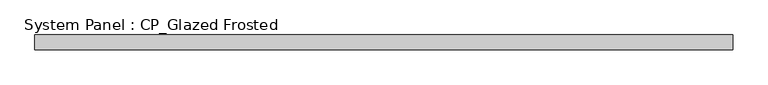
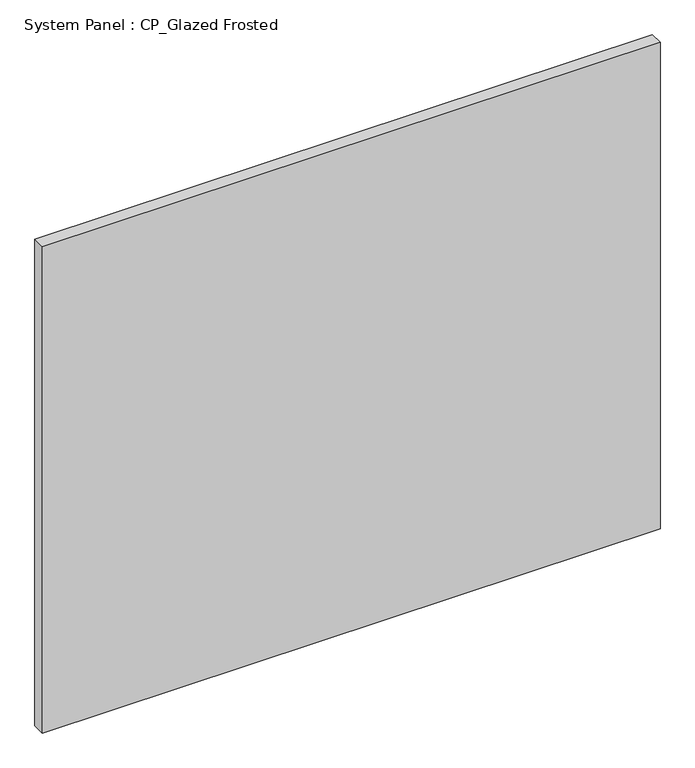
"""IFC4 building model written with IfcOpenShell, lengths in millimetres: plate geometry, System Panel : CP_Glazed Frosted."""

from ifc_helpers import new_model, si_unit, origin, origin_with_axes, place, context, project, spatial, polyline, outline, extrude, source, transform, mapped, element, save


def system_panel_cp_glazed_frosted_0f454312(model_context):
    return source(origin(), model_context, "Body", "SweptSolid", [
        extrude(outline(polyline([(596.503125, 19.05), (-596.503125, 19.05), (-596.503125, 44.45), (596.503125, 44.45), (596.503125, 19.05)])), origin_with_axes(), (0.0, 0.0, 1.0), 992.98125),
    ])


if __name__ == "__main__":
    model = new_model("IFC4")
    model_context = context("Model", 3, world=origin())
    ifc_project = project(units=[si_unit("LENGTHUNIT", "METRE", prefix="MILLI")], contexts=[model_context])
    site = spatial("IfcSite", under=ifc_project)
    building = spatial("IfcBuilding", under=site)
    placement = place(None, origin())
    system_panel_cp_glazed_frosted_shape = system_panel_cp_glazed_frosted_0f454312(model_context)
    element("IfcPlate", 1, ObjectType="System Panel : CP_Glazed Frosted", at=placement, inside=building, context=model_context, shape_type="MappedRepresentation", body=[
        mapped(system_panel_cp_glazed_frosted_shape, transform((0.0, 0.0, 0.0), x_axis=(1.0, 0.0, 0.0), y_axis=(0.0, 1.0, 0.0), z_axis=(0.0, 0.0, 1.0))),
    ])
    save(model, "model.ifc")
